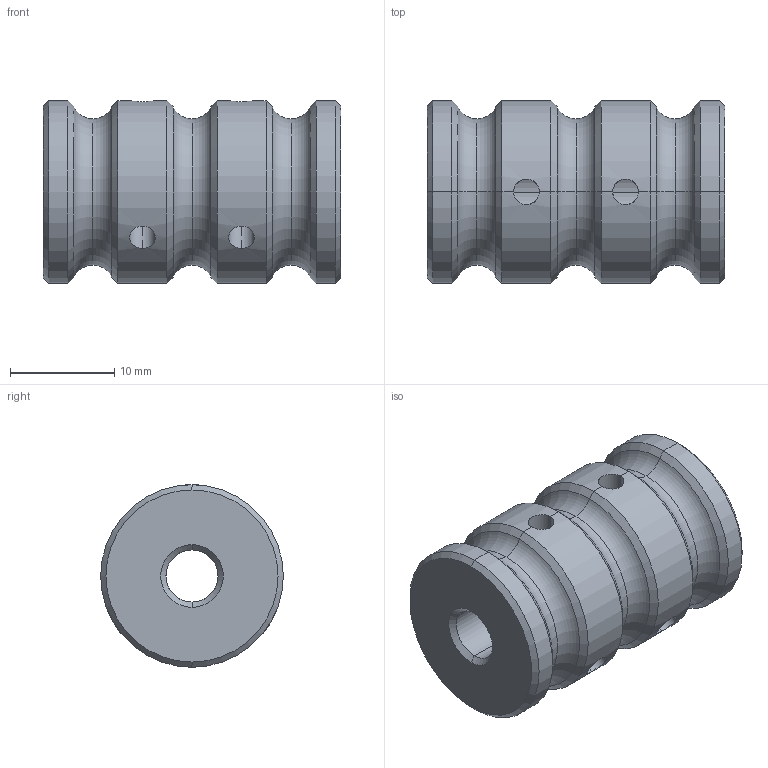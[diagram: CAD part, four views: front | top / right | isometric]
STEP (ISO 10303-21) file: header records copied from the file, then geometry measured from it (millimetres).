
FILE_DESCRIPTION (( 'STEP AP214' ), '1' );
FILE_NAME ('GZ21.34_V1气管上料辊筒.STEP', '2021-02-28T17:38:21', ( 'hp' ), ( '' ), 'SwSTEP 2.0', 'SolidWorks 2017', '' );
FILE_SCHEMA (( 'AUTOMOTIVE_DESIGN' ));
Length unit declared in the file: millimetre
Products named in the file (1): GZ21.34_V1气管上料辊筒
Bounding box: 28.5 x 17.5 x 17.5 mm (x, y, z)
Volume: 5263.6 mm3; surface area: 2760.3 mm2
Topology: 1 solids, 1 shells, 56 faces, 128 edges, 70 vertices
Faces by surface type: cylinder 22, cone 20, torus 12, plane 2
Entity records: 2152 total; most frequent: CARTESIAN_POINT 719, DIRECTION 276, ORIENTED_EDGE 256, EDGE_CURVE 128, AXIS2_PLACEMENT_3D 115, VERTEX_POINT 70, EDGE_LOOP 66, CIRCLE 58
